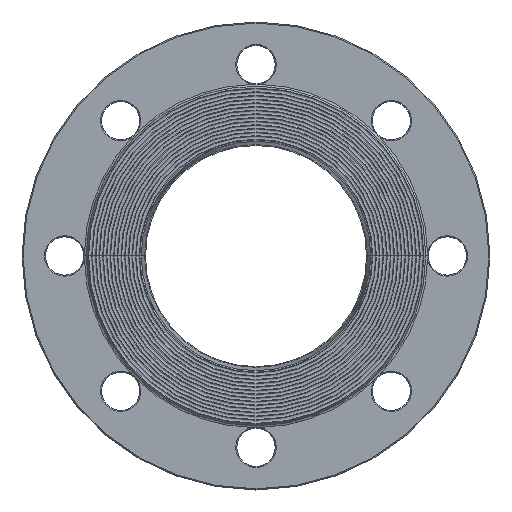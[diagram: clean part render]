
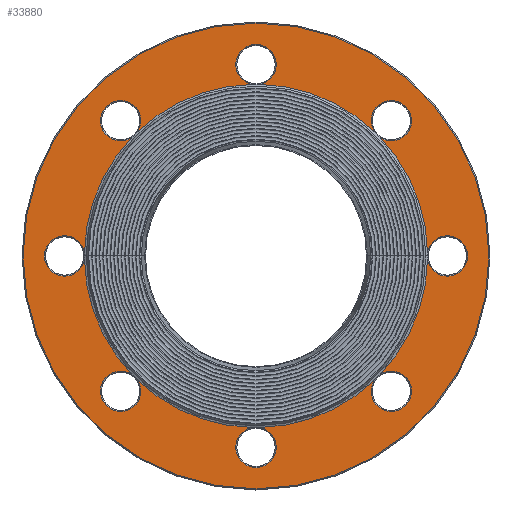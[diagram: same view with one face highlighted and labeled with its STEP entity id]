
A CAD part, top view. The second image highlights one B-rep face of the part: STEP entity #33880.
In plain terms, the highlighted planar face has unit normal (0, 0, 1).
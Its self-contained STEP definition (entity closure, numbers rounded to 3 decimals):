
#25390=CARTESIAN_POINT('',(119.5,200.,18.));
#25400=VERTEX_POINT('',#25390);
#25430=CARTESIAN_POINT('',(110.,200.,18.));
#25440=DIRECTION('',(0.,0.,1.));
#25450=DIRECTION('',(1.,0.,0.));
#25460=AXIS2_PLACEMENT_3D('',#25430,#25440,#25450);
#25470=CIRCLE('',#25460,9.5);
#25480=CARTESIAN_POINT('',(111.779,190.668,
18.));
#25490=VERTEX_POINT('',#25480);
#25500=EDGE_CURVE('',#25490,#25400,#25470,.T.);
#26160=CARTESIAN_POINT('',(108.221,190.668,
18.));
#26170=VERTEX_POINT('',#26160);
#26200=CARTESIAN_POINT('',(100.5,200.,18.));
#26210=VERTEX_POINT('',#26200);
#26220=EDGE_CURVE('',#26210,#26170,#25470,.T.);
#26540=EDGE_CURVE('',#25400,#26210,#25470,.T.);
#27010=CARTESIAN_POINT('',(183.14,46.36,
18.));
#27020=VERTEX_POINT('',#27010);
#27050=CARTESIAN_POINT('',(173.64,46.36,
18.));
#27060=DIRECTION('',(0.,0.,1.));
#27070=DIRECTION('',(1.,0.,0.));
#27080=AXIS2_PLACEMENT_3D('',#27050,#27060,#27070);
#27090=CIRCLE('',#27080,9.5);
#27100=CARTESIAN_POINT('',(164.14,46.36,
18.));
#27110=VERTEX_POINT('',#27100);
#27120=EDGE_CURVE('',#27110,#27020,#27090,.T.);
#27450=CARTESIAN_POINT('',(165.783,51.701,
18.));
#27460=VERTEX_POINT('',#27450);
#27470=EDGE_CURVE('',#27460,#27110,#27090,.T.);
#28080=CARTESIAN_POINT('',(168.299,54.217,
18.));
#28090=VERTEX_POINT('',#28080);
#28120=EDGE_CURVE('',#27020,#28090,#27090,.T.);
#28580=CARTESIAN_POINT('',(55.86,46.36,
18.));
#28590=VERTEX_POINT('',#28580);
#28620=CARTESIAN_POINT('',(46.36,46.36,
18.));
#28630=DIRECTION('',(0.,0.,1.));
#28640=DIRECTION('',(1.,0.,0.));
#28650=AXIS2_PLACEMENT_3D('',#28620,#28630,#28640);
#28660=CIRCLE('',#28650,9.5);
#28670=CARTESIAN_POINT('',(36.86,46.36,
18.));
#28680=VERTEX_POINT('',#28670);
#28690=EDGE_CURVE('',#28680,#28590,#28660,.T.);
#28900=CARTESIAN_POINT('',(51.701,54.217,
18.));
#28910=VERTEX_POINT('',#28900);
#28920=EDGE_CURVE('',#28910,#28680,#28660,.T.);
#29530=CARTESIAN_POINT('',(54.217,51.701,
18.));
#29540=VERTEX_POINT('',#29530);
#29570=EDGE_CURVE('',#28590,#29540,#28660,.T.);
#30150=CARTESIAN_POINT('',(183.14,173.64,
18.));
#30160=VERTEX_POINT('',#30150);
#30190=CARTESIAN_POINT('',(173.64,173.64,
18.));
#30200=DIRECTION('',(0.,0.,1.));
#30210=DIRECTION('',(1.,0.,0.));
#30220=AXIS2_PLACEMENT_3D('',#30190,#30200,#30210);
#30230=CIRCLE('',#30220,9.5);
#30240=CARTESIAN_POINT('',(168.299,165.783,
18.));
#30250=VERTEX_POINT('',#30240);
#30260=EDGE_CURVE('',#30250,#30160,#30230,.T.);
#30870=CARTESIAN_POINT('',(165.783,168.299,
18.));
#30880=VERTEX_POINT('',#30870);
#30910=CARTESIAN_POINT('',(164.14,173.64,
18.));
#30920=VERTEX_POINT('',#30910);
#30930=EDGE_CURVE('',#30920,#30880,#30230,.T.);
#31250=EDGE_CURVE('',#30160,#30920,#30230,.T.);
#32300=CARTESIAN_POINT('',(212.007,110.,18.));
#32310=DIRECTION('',(0.,0.,1.));
#32320=DIRECTION('',(1.,0.,0.));
#32330=AXIS2_PLACEMENT_3D('',#32300,#32310,#32320);
#32340=PLANE('',#32330);
#32350=ORIENTED_EDGE('',*,*,#30260,.F.);
#32360=ORIENTED_EDGE('',*,*,#31250,.F.);
#32370=ORIENTED_EDGE('',*,*,#30930,.F.);
#32380=CARTESIAN_POINT('',(110.,110.,18.));
#32390=DIRECTION('',(0.,0.,1.));
#32400=DIRECTION('',(-1.,0.,0.));
#32410=AXIS2_PLACEMENT_3D('',#32380,#32390,#32400);
#32420=CIRCLE('',#32410,80.688);
#32430=EDGE_CURVE('',#30880,#25490,#32420,.T.);
#32440=ORIENTED_EDGE('',*,*,#32430,.F.);
#32450=ORIENTED_EDGE('',*,*,#25500,.F.);
#32460=ORIENTED_EDGE('',*,*,#26540,.F.);
#32470=ORIENTED_EDGE('',*,*,#26220,.F.);
#32480=CARTESIAN_POINT('',(110.,110.,18.));
#32490=DIRECTION('',(0.,0.,1.));
#32500=DIRECTION('',(-1.,0.,0.));
#32510=AXIS2_PLACEMENT_3D('',#32480,#32490,#32500);
#32520=CIRCLE('',#32510,80.688);
#32530=CARTESIAN_POINT('',(54.217,168.299,
18.));
#32540=VERTEX_POINT('',#32530);
#32550=EDGE_CURVE('',#26170,#32540,#32520,.T.);
#32560=ORIENTED_EDGE('',*,*,#32550,.F.);
#32570=CARTESIAN_POINT('',(46.36,173.64,
18.));
#32580=DIRECTION('',(0.,0.,1.));
#32590=DIRECTION('',(1.,0.,0.));
#32600=AXIS2_PLACEMENT_3D('',#32570,#32580,#32590);
#32610=CIRCLE('',#32600,9.5);
#32620=CARTESIAN_POINT('',(55.86,173.64,
18.));
#32630=VERTEX_POINT('',#32620);
#32640=EDGE_CURVE('',#32540,#32630,#32610,.T.);
#32650=ORIENTED_EDGE('',*,*,#32640,.F.);
#32660=CARTESIAN_POINT('',(36.86,173.64,
18.));
#32670=VERTEX_POINT('',#32660);
#32680=EDGE_CURVE('',#32630,#32670,#32610,.T.);
#32690=ORIENTED_EDGE('',*,*,#32680,.F.);
#32700=CARTESIAN_POINT('',(51.701,165.783,
18.));
#32710=VERTEX_POINT('',#32700);
#32720=EDGE_CURVE('',#32670,#32710,#32610,.T.);
#32730=ORIENTED_EDGE('',*,*,#32720,.F.);
#32740=CARTESIAN_POINT('',(110.,110.,18.));
#32750=DIRECTION('',(0.,0.,1.));
#32760=DIRECTION('',(-1.,0.,0.));
#32770=AXIS2_PLACEMENT_3D('',#32740,#32750,#32760);
#32780=CIRCLE('',#32770,80.688);
#32790=CARTESIAN_POINT('',(29.332,111.779,
18.));
#32800=VERTEX_POINT('',#32790);
#32810=EDGE_CURVE('',#32710,#32800,#32780,.T.);
#32820=ORIENTED_EDGE('',*,*,#32810,.F.);
#32830=CARTESIAN_POINT('',(20.,110.,18.));
#32840=DIRECTION('',(0.,0.,1.));
#32850=DIRECTION('',(1.,0.,0.));
#32860=AXIS2_PLACEMENT_3D('',#32830,#32840,#32850);
#32870=CIRCLE('',#32860,9.5);
#32880=CARTESIAN_POINT('',(10.5,110.,18.));
#32890=VERTEX_POINT('',#32880);
#32900=EDGE_CURVE('',#32800,#32890,#32870,.T.);
#32910=ORIENTED_EDGE('',*,*,#32900,.F.);
#32920=CARTESIAN_POINT('',(29.332,108.221,
18.));
#32930=VERTEX_POINT('',#32920);
#32940=EDGE_CURVE('',#32890,#32930,#32870,.T.);
#32950=ORIENTED_EDGE('',*,*,#32940,.F.);
#32960=CARTESIAN_POINT('',(110.,110.,18.));
#32970=DIRECTION('',(0.,0.,1.));
#32980=DIRECTION('',(-1.,0.,0.));
#32990=AXIS2_PLACEMENT_3D('',#32960,#32970,#32980);
#33000=CIRCLE('',#32990,80.688);
#33010=EDGE_CURVE('',#32930,#28910,#33000,.T.);
#33020=ORIENTED_EDGE('',*,*,#33010,.F.);
#33030=ORIENTED_EDGE('',*,*,#28920,.F.);
#33040=ORIENTED_EDGE('',*,*,#28690,.F.);
#33050=ORIENTED_EDGE('',*,*,#29570,.F.);
#33060=CARTESIAN_POINT('',(110.,110.,18.));
#33070=DIRECTION('',(0.,0.,1.));
#33080=DIRECTION('',(-1.,0.,0.));
#33090=AXIS2_PLACEMENT_3D('',#33060,#33070,#33080);
#33100=CIRCLE('',#33090,80.688);
#33110=CARTESIAN_POINT('',(108.221,29.332,
18.));
#33120=VERTEX_POINT('',#33110);
#33130=EDGE_CURVE('',#29540,#33120,#33100,.T.);
#33140=ORIENTED_EDGE('',*,*,#33130,.F.);
#33150=CARTESIAN_POINT('',(110.,20.,18.));
#33160=DIRECTION('',(0.,0.,1.));
#33170=DIRECTION('',(1.,0.,0.));
#33180=AXIS2_PLACEMENT_3D('',#33150,#33160,#33170);
#33190=CIRCLE('',#33180,9.5);
#33200=CARTESIAN_POINT('',(100.5,20.,18.));
#33210=VERTEX_POINT('',#33200);
#33220=EDGE_CURVE('',#33120,#33210,#33190,.T.);
#33230=ORIENTED_EDGE('',*,*,#33220,.F.);
#33240=CARTESIAN_POINT('',(119.5,20.,18.));
#33250=VERTEX_POINT('',#33240);
#33260=EDGE_CURVE('',#33210,#33250,#33190,.T.);
#33270=ORIENTED_EDGE('',*,*,#33260,.F.);
#33280=CARTESIAN_POINT('',(111.779,29.332,
18.));
#33290=VERTEX_POINT('',#33280);
#33300=EDGE_CURVE('',#33250,#33290,#33190,.T.);
#33310=ORIENTED_EDGE('',*,*,#33300,.F.);
#33320=CARTESIAN_POINT('',(110.,110.,18.));
#33330=DIRECTION('',(0.,0.,1.));
#33340=DIRECTION('',(-1.,0.,0.));
#33350=AXIS2_PLACEMENT_3D('',#33320,#33330,#33340);
#33360=CIRCLE('',#33350,80.688);
#33370=EDGE_CURVE('',#33290,#27460,#33360,.T.);
#33380=ORIENTED_EDGE('',*,*,#33370,.F.);
#33390=ORIENTED_EDGE('',*,*,#27470,.F.);
#33400=ORIENTED_EDGE('',*,*,#27120,.F.);
#33410=ORIENTED_EDGE('',*,*,#28120,.F.);
#33420=CARTESIAN_POINT('',(110.,110.,18.));
#33430=DIRECTION('',(0.,0.,1.));
#33440=DIRECTION('',(-1.,0.,0.));
#33450=AXIS2_PLACEMENT_3D('',#33420,#33430,#33440);
#33460=CIRCLE('',#33450,80.688);
#33470=CARTESIAN_POINT('',(190.668,108.221,
18.));
#33480=VERTEX_POINT('',#33470);
#33490=EDGE_CURVE('',#28090,#33480,#33460,.T.);
#33500=ORIENTED_EDGE('',*,*,#33490,.F.);
#33510=CARTESIAN_POINT('',(200.,110.,18.));
#33520=DIRECTION('',(0.,0.,1.));
#33530=DIRECTION('',(1.,0.,0.));
#33540=AXIS2_PLACEMENT_3D('',#33510,#33520,#33530);
#33550=CIRCLE('',#33540,9.5);
#33560=CARTESIAN_POINT('',(209.5,110.,18.));
#33570=VERTEX_POINT('',#33560);
#33580=EDGE_CURVE('',#33480,#33570,#33550,.T.);
#33590=ORIENTED_EDGE('',*,*,#33580,.F.);
#33600=CARTESIAN_POINT('',(190.668,111.779,
18.));
#33610=VERTEX_POINT('',#33600);
#33620=EDGE_CURVE('',#33570,#33610,#33550,.T.);
#33630=ORIENTED_EDGE('',*,*,#33620,.F.);
#33640=CARTESIAN_POINT('',(110.,110.,18.));
#33650=DIRECTION('',(0.,0.,1.));
#33660=DIRECTION('',(-1.,0.,0.));
#33670=AXIS2_PLACEMENT_3D('',#33640,#33650,#33660);
#33680=CIRCLE('',#33670,80.688);
#33690=EDGE_CURVE('',#33610,#30250,#33680,.T.);
#33700=ORIENTED_EDGE('',*,*,#33690,.F.);
#33710=EDGE_LOOP('',(#33700,#33630,#33590,#33500,#33410,#33400,#33390,
#33380,#33310,#33270,#33230,#33140,#33050,#33040,#33030,#33020,#32950,
#32910,#32820,#32730,#32690,#32650,#32560,#32470,#32460,#32450,#32440,
#32370,#32360,#32350));
#33720=FACE_BOUND('',#33710,.T.);
#33730=CARTESIAN_POINT('',(110.,110.,18.));
#33740=DIRECTION('',(0.,0.,1.));
#33750=DIRECTION('',(1.,0.,0.));
#33760=AXIS2_PLACEMENT_3D('',#33730,#33740,#33750);
#33770=CIRCLE('',#33760,109.5);
#33780=CARTESIAN_POINT('',(219.5,110.,18.));
#33790=VERTEX_POINT('',#33780);
#33800=CARTESIAN_POINT('',(0.5,110.,18.));
#33810=VERTEX_POINT('',#33800);
#33820=EDGE_CURVE('',#33790,#33810,#33770,.T.);
#33830=ORIENTED_EDGE('',*,*,#33820,.T.);
#33840=EDGE_CURVE('',#33810,#33790,#33770,.T.);
#33850=ORIENTED_EDGE('',*,*,#33840,.T.);
#33860=EDGE_LOOP('',(#33850,#33830));
#33870=FACE_OUTER_BOUND('',#33860,.T.);
#33880=ADVANCED_FACE('',(#33720,#33870),#32340,.T.);
